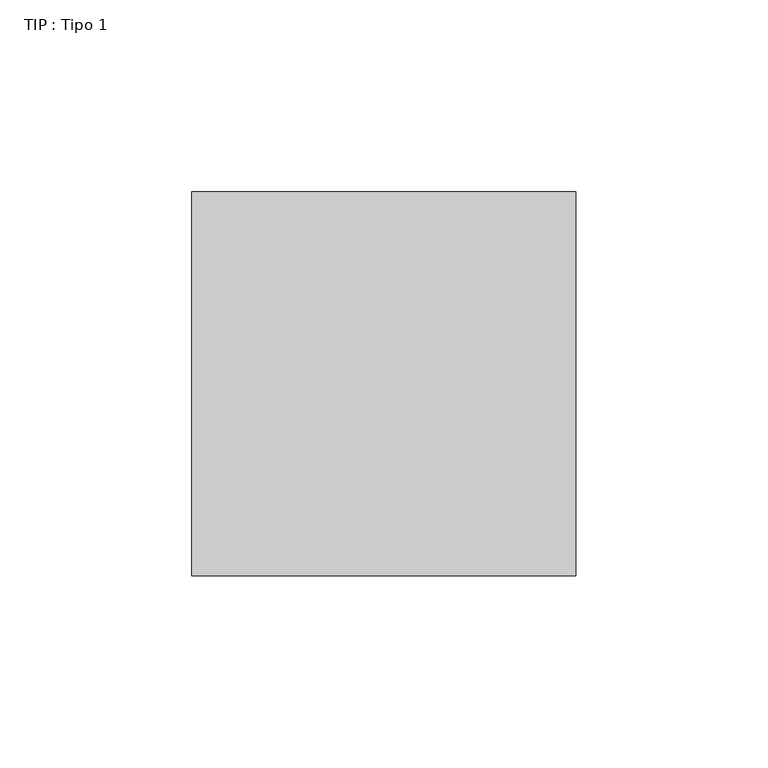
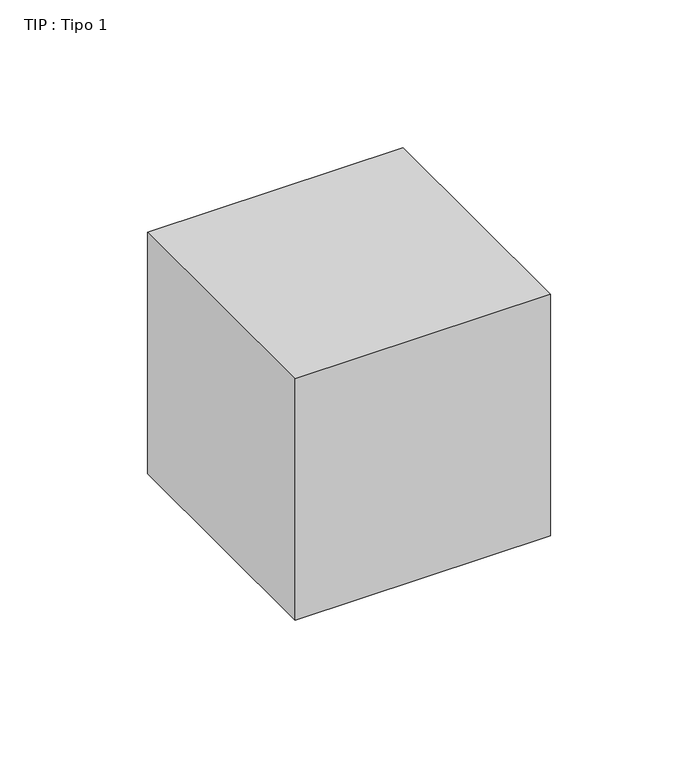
"""IFC4 building model written with IfcOpenShell, lengths in millimetres: proxy geometry, TIP : Tipo 1."""

import ifcopenshell
import ifcopenshell.guid

model = None  # the IFC model being written
_history = None  # IfcOwnerHistory: only IFC2X3 demands one
_inside = {}  # id of a spatial element -> (the spatial element, [elements in it])
_under = {}  # id of a project, library or spatial element -> (it, [spatial elements below it])
_declared = {}  # id of a project -> (the project, [libraries it declares])
_typed = {}  # id of a type object -> (the type object, [elements of that type])
_made_of = {}  # id of a material, layer set ... -> (it, [elements and type objects made of it])


def new_model(schema):
    """Start an empty IFC model of exactly this schema.

    Asked for "IFC4X3", IfcOpenShell would pick the latest addendum, in which some entities
    have other attributes; the version numbers below select the first issue.
    IFC2X3 requires an IfcOwnerHistory on every rooted entity: one is made here for all.
    """
    global model, _history
    if schema == "IFC4X3":
        model = ifcopenshell.file(schema_version=(4, 3, 0, 0))
    else:
        model = ifcopenshell.file(schema=schema)
    _inside.clear()
    _under.clear()
    _declared.clear()
    _typed.clear()
    _made_of.clear()
    _history = None
    if model.schema == "IFC2X3":
        org = make("IfcOrganization", Name="unknown")
        user = make(
            "IfcPersonAndOrganization",
            ThePerson=make("IfcPerson", FamilyName="unknown"),
            TheOrganization=org,
        )
        app = make(
            "IfcApplication",
            ApplicationDeveloper=org,
            Version="unknown",
            ApplicationFullName="unknown",
            ApplicationIdentifier="unknown",
        )
        _history = make(
            "IfcOwnerHistory",
            OwningUser=user,
            OwningApplication=app,
            ChangeAction="ADDED",
            CreationDate=0,
        )
    return model


def make(cls, **values):
    """One entity of the class cls with the attributes given. An attribute that is None is left unset."""
    return model.create_entity(
        cls, **{name: value for name, value in values.items() if value is not None}
    )


def rooted(cls, **values):
    """An entity with a GlobalId (a new one), such as an element, a storey or a relation."""
    return make(cls, GlobalId=ifcopenshell.guid.new(), OwnerHistory=_history, **values)


def si_unit(unit_type, name, prefix=None):
    """IfcSIUnit, for example si_unit("LENGTHUNIT", "METRE", prefix="MILLI")."""
    return make("IfcSIUnit", UnitType=unit_type, Prefix=prefix, Name=name)


def assignment(units):
    """IfcUnitAssignment: the units of a project."""
    return None if units is None else make("IfcUnitAssignment", Units=units)


def point(xyz):
    """IfcCartesianPoint."""
    return None if xyz is None else make("IfcCartesianPoint", Coordinates=xyz)


def direction(xyz):
    """IfcDirection."""
    return None if xyz is None else make("IfcDirection", DirectionRatios=xyz)


def frame(location, z_axis=None, x_axis=None):
    """IfcAxis2Placement3D, a coordinate frame: its origin and axes. An axis left out is left unset."""
    return make(
        "IfcAxis2Placement3D",
        Location=point(location),
        Axis=direction(z_axis),
        RefDirection=direction(x_axis),
    )


def origin():
    """The frame at (0, 0, 0) with its axes left unset."""
    return frame((0.0, 0.0, 0.0))


def place(relative_to, where):
    """IfcLocalPlacement: puts the frame where relative to a parent placement (None: the world)."""
    return make(
        "IfcLocalPlacement", PlacementRelTo=relative_to, RelativePlacement=where
    )


def context(
    kind, dimensions, precision=None, world=None, true_north=None, identifier=None
):
    """IfcGeometricRepresentationContext, for example the 3D "Model" context."""
    return make(
        "IfcGeometricRepresentationContext",
        ContextIdentifier=identifier,
        ContextType=kind,
        CoordinateSpaceDimension=dimensions,
        Precision=precision,
        WorldCoordinateSystem=world,
        TrueNorth=true_north,
    )


def project(units=None, contexts=None):
    """IfcProject with its units and contexts."""
    return rooted(
        "IfcProject",
        Name="project",
        RepresentationContexts=contexts,
        UnitsInContext=assignment(units),
    )


def spatial(cls, under=None, at=None, **own):
    """A site, building, storey or space (cls), placed at a placement, below another one or the project."""
    s = rooted(cls, ObjectPlacement=at, **own)
    if under is not None:
        _under.setdefault(under.id(), (under, []))[1].append(s)
    return s


def polyline(points):
    """IfcPolyline through the points."""
    return make("IfcPolyline", Points=[point(p) for p in points])


def outline(outer, holes=None, kind="AREA"):
    """IfcArbitraryClosedProfileDef: a profile drawn as a closed curve; with holes, ...WithVoids."""
    if holes is None:
        return make("IfcArbitraryClosedProfileDef", ProfileType=kind, OuterCurve=outer)
    return make(
        "IfcArbitraryProfileDefWithVoids",
        ProfileType=kind,
        OuterCurve=outer,
        InnerCurves=holes,
    )


def extrude(swept, where, along, depth):
    """IfcExtrudedAreaSolid: the profile swept, set in the frame where, extruded along a direction by depth."""
    return make(
        "IfcExtrudedAreaSolid",
        SweptArea=swept,
        Position=where,
        ExtrudedDirection=direction(along),
        Depth=depth,
    )


def shape(context_of_items, identifier, shape_type, items):
    """IfcShapeRepresentation: the items that make up one representation, for example the "Body"."""
    return make(
        "IfcShapeRepresentation",
        ContextOfItems=context_of_items,
        RepresentationIdentifier=identifier,
        RepresentationType=shape_type,
        Items=items,
    )


def source(mapping_origin, context_of_items, identifier, shape_type, items):
    """IfcRepresentationMap: a shape defined once, which mapped items show again and again."""
    return make(
        "IfcRepresentationMap",
        MappingOrigin=mapping_origin,
        MappedRepresentation=shape(context_of_items, identifier, shape_type, items),
    )


def transform(
    local_origin,
    x_axis=None,
    y_axis=None,
    z_axis=None,
    scale=None,
    scale2=None,
    scale3=None,
    uniform=True,
):
    """IfcCartesianTransformationOperator3D, or its non-uniform kind. x_axis, y_axis, z_axis: its Axis1, 2, 3."""
    if uniform:
        return make(
            "IfcCartesianTransformationOperator3D",
            Axis1=direction(x_axis),
            Axis2=direction(y_axis),
            LocalOrigin=point(local_origin),
            Scale=scale,
            Axis3=direction(z_axis),
        )
    return make(
        "IfcCartesianTransformationOperator3DnonUniform",
        Axis1=direction(x_axis),
        Axis2=direction(y_axis),
        LocalOrigin=point(local_origin),
        Scale=scale,
        Axis3=direction(z_axis),
        Scale2=scale2,
        Scale3=scale3,
    )


def mapped(mapping_source, mapping_target):
    """IfcMappedItem: shows the shape of a source again, moved by a transform."""
    return make(
        "IfcMappedItem", MappingSource=mapping_source, MappingTarget=mapping_target
    )


def made_of(thing, what):
    """Note that an element or type object is made of a material, layer set ...; save() writes the relation."""
    if what is not None:
        _made_of.setdefault(what.id(), (what, []))[1].append(thing)
    return thing


def element(
    cls,
    number,
    at=None,
    inside=None,
    cuts=None,
    type_object=None,
    material=None,
    context=None,
    identifier="Body",
    shape_type=None,
    held_by="IfcProductDefinitionShape",
    body=None,
    shapes=None,
    **own,
):
    """One element of the class cls, such as IfcWall. Its Tag is "e" and its number.

    at: its placement. inside: the storey or other place that contains it. cuts: it is an
    opening in that element (IfcRelVoidsElement). A single representation is given by context,
    identifier, shape_type and body (its items); several are given by shapes. held_by: the class
    of the entity that holds the representations. save() writes the other relations.
    """
    e = rooted(cls, Tag="e%d" % number, ObjectPlacement=at, **own)
    if body is not None:
        shapes = [shape(context, identifier, shape_type, body)]
    if shapes is not None:
        e.Representation = make(held_by, Representations=shapes)
    if inside is not None:
        _inside.setdefault(inside.id(), (inside, []))[1].append(e)
    if cuts is not None:
        rooted(
            "IfcRelVoidsElement", RelatingBuildingElement=cuts, RelatedOpeningElement=e
        )
    if type_object is not None:
        _typed.setdefault(type_object.id(), (type_object, []))[1].append(e)
    return made_of(e, material)


def aggregate(whole, parts):
    """IfcRelAggregates: a whole, such as a stair, and the parts it consists of."""
    return rooted("IfcRelAggregates", RelatingObject=whole, RelatedObjects=parts)


def save(model, path):
    """Write the relations noted so far, then the file.

    IfcRelAggregates (storeys below a building ...), IfcRelContainedInSpatialStructure (elements
    in a storey), IfcRelDefinesByType, IfcRelAssociatesMaterial and IfcRelDeclares: one each for
    every whole, place, type object, material and project.
    """
    for whole, parts in _under.values():
        aggregate(whole, parts)
    for where, things in _inside.values():
        rooted(
            "IfcRelContainedInSpatialStructure",
            RelatedElements=things,
            RelatingStructure=where,
        )
    for kind, things in _typed.values():
        rooted("IfcRelDefinesByType", RelatedObjects=things, RelatingType=kind)
    for what, things in _made_of.values():
        rooted("IfcRelAssociatesMaterial", RelatedObjects=things, RelatingMaterial=what)
    for by, libraries in _declared.values():
        rooted("IfcRelDeclares", RelatingContext=by, RelatedDefinitions=libraries)
    model.write(path)


def tip_tipo_1_c59b7fa3(model_context):
    return source(origin(), model_context, "Body", "SweptSolid", [
        extrude(outline(polyline([(175.0, -175.0), (75.0, -175.0), (75.0, -75.0), (175.0, -75.0), (175.0, -175.0)])), frame((0.0, 0.0, 629.7029033), z_axis=(0.0, 0.0, 1.0), x_axis=(1.0, 0.0, 0.0)), (0.0, 0.0, 1.0), 100.0),
    ])


if __name__ == "__main__":
    model = new_model("IFC4")
    model_context = context("Model", 3, world=origin())
    ifc_project = project(units=[si_unit("LENGTHUNIT", "METRE", prefix="MILLI")], contexts=[model_context])
    site = spatial("IfcSite", under=ifc_project)
    building = spatial("IfcBuilding", under=site)
    placement = place(None, origin())
    tip_tipo_1_shape = tip_tipo_1_c59b7fa3(model_context)
    element("IfcBuildingElementProxy", 1, Name="TIP : Tipo 1", ObjectType="TIP : Tipo 1", at=placement, inside=building, context=model_context, shape_type="MappedRepresentation", body=[
        mapped(tip_tipo_1_shape, transform((0.0, 0.0, 0.0), x_axis=(1.0, 0.0, 0.0), y_axis=(0.0, 1.0, 0.0), z_axis=(0.0, 0.0, 1.0))),
    ])
    save(model, "model.ifc")
